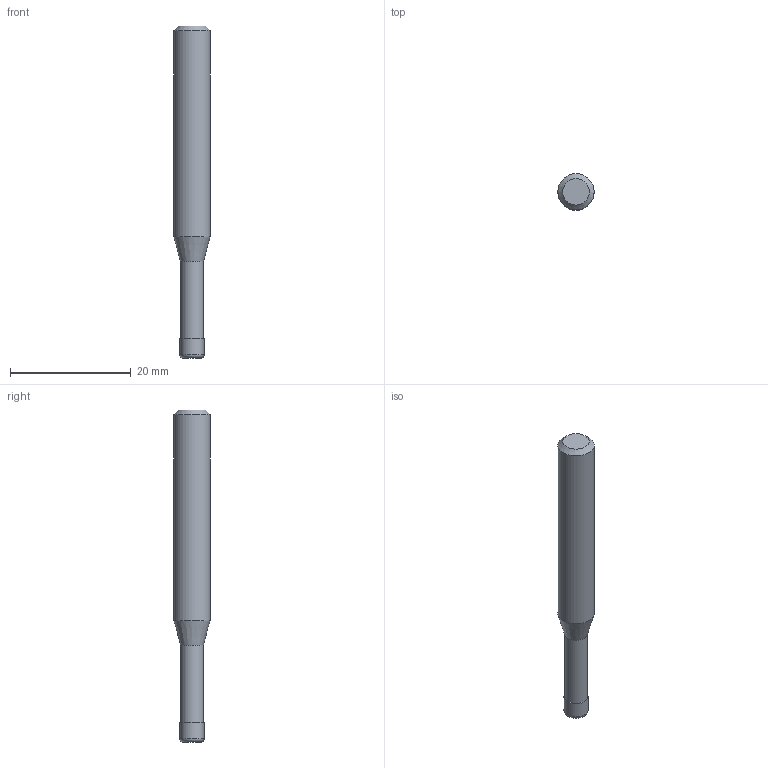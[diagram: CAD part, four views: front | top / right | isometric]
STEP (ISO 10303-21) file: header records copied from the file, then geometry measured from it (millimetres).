
FILE_DESCRIPTION((''),'2;1');
FILE_NAME('C:\Users\nsx150\AppData\Local\Temp\Mastercam 2021\8MCJJJGUOI\TEMP.step','2022-10-12T10:46:18',(''),(''),'STEP Write','Mastercam 2021 ... CNC Software, Inc.','');
FILE_SCHEMA(('AUTOMOTIVE_DESIGN'));
Length unit declared in the file: millimetre
Products named in the file (1): None
Bounding box: 6 x 6 x 55 mm (x, y, z)
Volume: 1244.6 mm3; surface area: 968.5 mm2
Topology: 2 solids, 2 shells, 10 faces, 14 edges, 8 vertices
Faces by surface type: plane 4, cylinder 3, cone 2, torus 1
Full cylindrical faces by diameter (mm): 3.8 x1, 4 x1, 6 x1
Entity records: 232 total; most frequent: DIRECTION 40, CARTESIAN_POINT 28, AXIS2_PLACEMENT_3D 20, ORIENTED_EDGE 16, EDGE_LOOP 16, STYLED_ITEM 13, ADVANCED_FACE 10, FACE_BOUND 10
